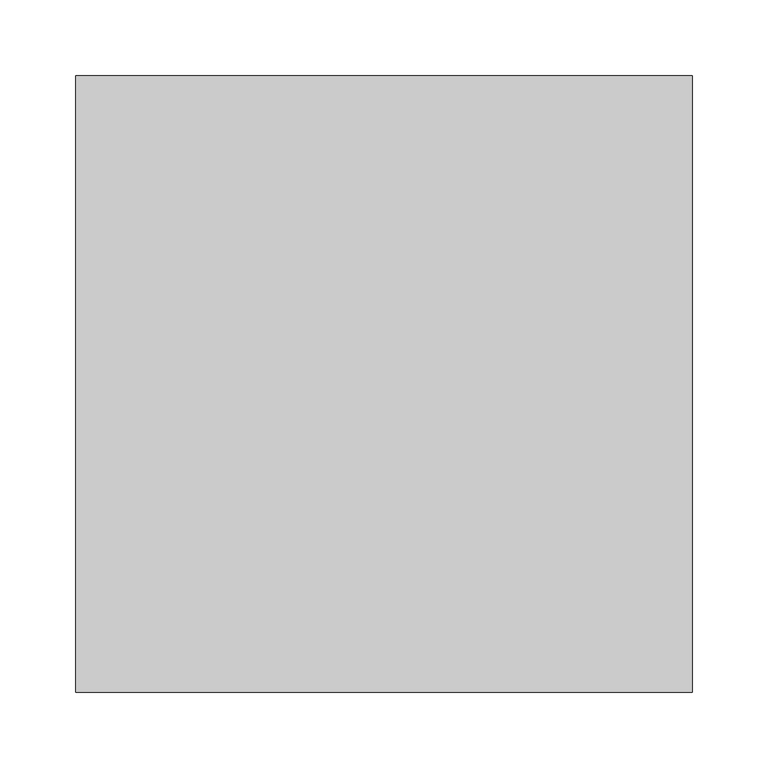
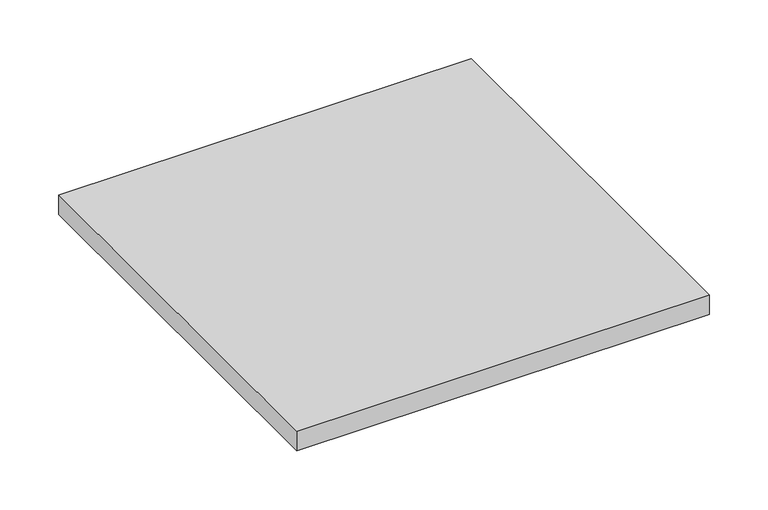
"""IFC4 building model written with IfcOpenShell, lengths in millimetres: furniture geometry, Newspaper : Newspaper."""

from ifc_helpers import new_model, si_unit, frame, origin, place, context, project, spatial, polyline, outline, extrude, source, transform, mapped, element, save


def furniture_981c732f(model_context):
    return source(origin(), model_context, "Body", "SweptSolid", [
        extrude(outline(polyline([(15923.3485971, 14635.5527356), (15516.9485971, 14635.5527356), (15516.9485971, 15041.9527356), (15923.3485971, 15041.9527356), (15923.3485971, 14635.5527356)])), frame((0.0, 0.0, 7728.7719789), z_axis=(0.0, 0.0, 1.0), x_axis=(1.0, 0.0, 0.0)), (0.0, 0.0, 1.0), 20.3752016),
    ])


if __name__ == "__main__":
    model = new_model("IFC4")
    model_context = context("Model", 3, world=origin())
    ifc_project = project(units=[si_unit("LENGTHUNIT", "METRE", prefix="MILLI")], contexts=[model_context])
    site = spatial("IfcSite", under=ifc_project)
    building = spatial("IfcBuilding", under=site)
    placement = place(None, origin())
    furniture_shape = furniture_981c732f(model_context)
    element("IfcFurniture", 1, ObjectType="Newspaper : Newspaper", at=placement, inside=building, context=model_context, shape_type="MappedRepresentation", body=[
        mapped(furniture_shape, transform((0.0, 0.0, 0.0), x_axis=(1.0, 0.0, 0.0), y_axis=(0.0, 1.0, 0.0), z_axis=(0.0, 0.0, 1.0))),
    ])
    save(model, "model.ifc")
